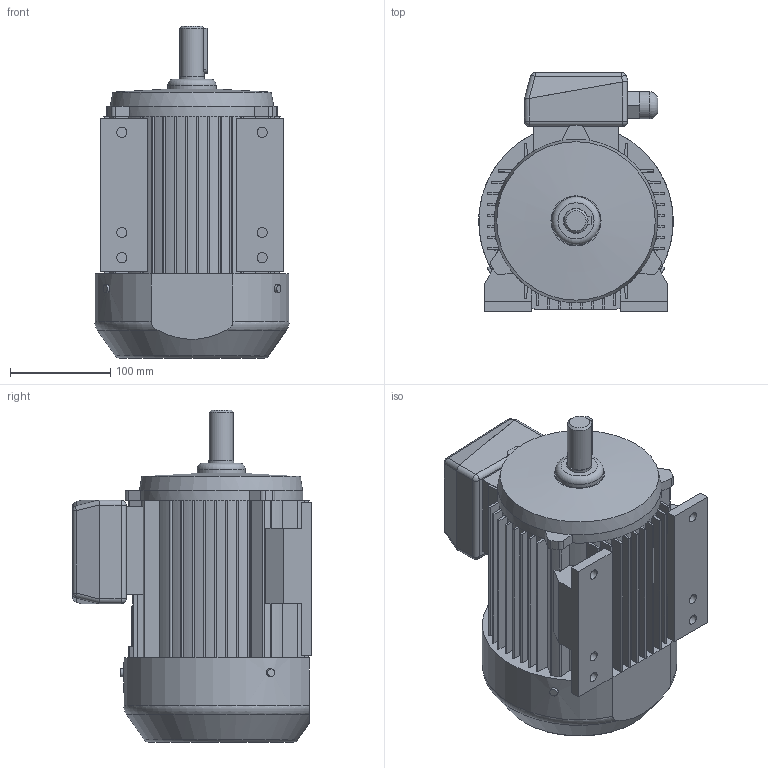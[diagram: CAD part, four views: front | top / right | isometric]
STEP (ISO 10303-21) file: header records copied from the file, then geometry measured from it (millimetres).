
FILE_DESCRIPTION(/* description */ ('Unknown'),/* implementation_level */ '2;1');
FILE_NAME(/* name */ 'Ex 3SIE90S2,4,6;L2 – 2G,2D,2G%2D – IMB3',/* time_stamp */ '2023-05-11T07:58:42+02:00',/* author */ ('Unknown'),/* organization */ ('Unknown'),/* preprocessor_version */ 'ST-DEVELOPER v16.7',/* originating_system */ 'DEX',/* authorisation */ $);
FILE_SCHEMA (('AUTOMOTIVE_DESIGN {1 0 10303 214 3 1 1}'));
Length unit declared in the file: millimetre
Products named in the file (1): 3SIE90S2,4,6,L2
Bounding box: 193.75 x 238 x 331 mm (x, y, z)
Volume: 7202126.9 mm3; surface area: 384302.4 mm2
Topology: 2 solids, 2 shells, 521 faces, 1418 edges, 907 vertices
Faces by surface type: plane 292, cylinder 135, bspline 78, sphere 8, cone 4, torus 4
Full cylindrical faces by diameter (mm): 8 x3, 10 x6, 24 x1, 25 x1, 27 x1, 48 x1
Entity records: 19885 total; most frequent: CARTESIAN_POINT 7122, ORIENTED_EDGE 2758, DIRECTION 2460, EDGE_CURVE 1379, VERTEX_POINT 896, LINE 858, VECTOR 858, AXIS2_PLACEMENT_3D 801
